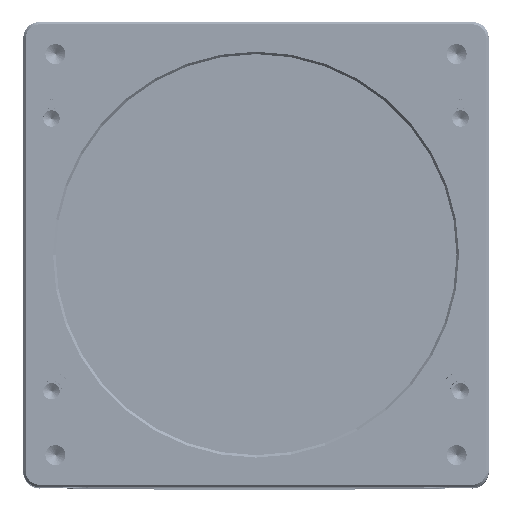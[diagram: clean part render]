
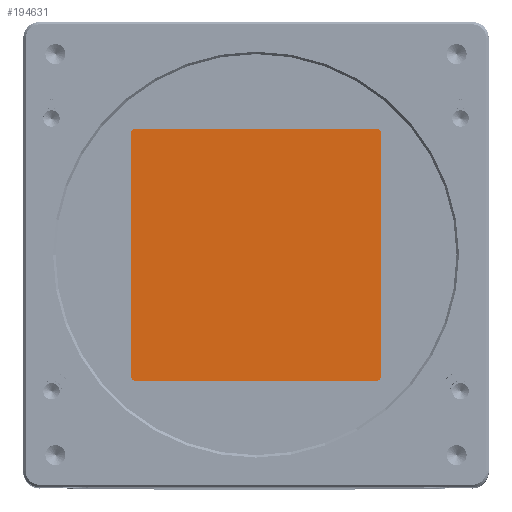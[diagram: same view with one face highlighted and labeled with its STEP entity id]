
A CAD part, top view. The second image highlights one B-rep face of the part: STEP entity #194631.
In plain terms, the highlighted planar face has unit normal (0, 0, 1) as drawn and (0, 1, 0) by its records, which use the part's own axes.
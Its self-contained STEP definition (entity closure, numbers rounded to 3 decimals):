
#59 = CARTESIAN_POINT ( 'NONE',  ( 20.5, 0.7, -19. ) ) ;
#549 = EDGE_CURVE ( 'NONE', #215027, #181083, #163445, .T. ) ;
#584 = ORIENTED_EDGE ( 'NONE', *, *, #49203, .T. ) ;
#1495 = VERTEX_POINT ( 'NONE', #126669 ) ;
#3606 = CARTESIAN_POINT ( 'NONE',  ( -21., 0.7, 19. ) ) ;
#3703 = VERTEX_POINT ( 'NONE', #43008 ) ;
#20655 = LINE ( 'NONE', #234100, #246732 ) ;
#20661 = CARTESIAN_POINT ( 'NONE',  ( -21., 0.7, -18.5 ) ) ;
#21483 = ORIENTED_EDGE ( 'NONE', *, *, #189942, .T. ) ;
#21968 = LINE ( 'NONE', #3606, #217265 ) ;
#41131 = EDGE_CURVE ( 'NONE', #1495, #119041, #110899, .T. ) ;
#43008 = CARTESIAN_POINT ( 'NONE',  ( -21., 0.7, -18.5 ) ) ;
#49203 = EDGE_CURVE ( 'NONE', #54958, #83315, #90617, .T. ) ;
#50700 = DIRECTION ( 'NONE',  ( 0., 0., -1. ) ) ;
#54776 = DIRECTION ( 'NONE',  ( 0.707, 0., -0.707 ) ) ;
#54958 = VERTEX_POINT ( 'NONE', #59 ) ;
#62481 = VECTOR ( 'NONE', #181731, 1000. ) ;
#62525 = DIRECTION ( 'NONE',  ( 0., 0., 1. ) ) ;
#62690 = CARTESIAN_POINT ( 'NONE',  ( -20.5, 0.7, 19. ) ) ;
#64291 = ORIENTED_EDGE ( 'NONE', *, *, #41131, .T. ) ;
#65040 = DIRECTION ( 'NONE',  ( 0., 0., -1. ) ) ;
#70895 = CARTESIAN_POINT ( 'NONE',  ( 20.5, 0.7, 19. ) ) ;
#81106 = DIRECTION ( 'NONE',  ( 1., 0., 0. ) ) ;
#82294 = EDGE_CURVE ( 'NONE', #83315, #3703, #120097, .T. ) ;
#82640 = VECTOR ( 'NONE', #81106, 1000. ) ;
#83315 = VERTEX_POINT ( 'NONE', #195882 ) ;
#89817 = FACE_OUTER_BOUND ( 'NONE', #166052, .T. ) ;
#90617 = LINE ( 'NONE', #248996, #251731 ) ;
#91326 = ORIENTED_EDGE ( 'NONE', *, *, #549, .T. ) ;
#91885 = EDGE_CURVE ( 'NONE', #103052, #1495, #20655, .T. ) ;
#103052 = VERTEX_POINT ( 'NONE', #70895 ) ;
#103332 = VECTOR ( 'NONE', #50700, 1000. ) ;
#107369 = ORIENTED_EDGE ( 'NONE', *, *, #91885, .T. ) ;
#108167 = DIRECTION ( 'NONE',  ( 0., -1., 0. ) ) ;
#110899 = LINE ( 'NONE', #209109, #103332 ) ;
#114034 = AXIS2_PLACEMENT_3D ( 'NONE', #126519, #108167, #65040 ) ;
#118799 = DIRECTION ( 'NONE',  ( -0.707, 0., 0.707 ) ) ;
#119041 = VERTEX_POINT ( 'NONE', #257261 ) ;
#120097 = LINE ( 'NONE', #20661, #156839 ) ;
#121486 = CARTESIAN_POINT ( 'NONE',  ( 20.5, 0.7, -19. ) ) ;
#124864 = EDGE_CURVE ( 'NONE', #3703, #215027, #21968, .T. ) ;
#126519 = CARTESIAN_POINT ( 'NONE',  ( 0., 0.7, 0. ) ) ;
#126669 = CARTESIAN_POINT ( 'NONE',  ( 21., 0.7, 18.5 ) ) ;
#144557 = CARTESIAN_POINT ( 'NONE',  ( -20.5, 0.7, 19. ) ) ;
#154326 = DIRECTION ( 'NONE',  ( -1., 0., 0. ) ) ;
#156839 = VECTOR ( 'NONE', #118799, 1000. ) ;
#159701 = CARTESIAN_POINT ( 'NONE',  ( -21., 0.7, 18.5 ) ) ;
#163445 = LINE ( 'NONE', #62690, #256167 ) ;
#166052 = EDGE_LOOP ( 'NONE', ( #584, #225916, #198601, #91326, #203940, #107369, #64291, #21483 ) ) ;
#181083 = VERTEX_POINT ( 'NONE', #144557 ) ;
#181731 = DIRECTION ( 'NONE',  ( -0.707, 0., -0.707 ) ) ;
#183137 = DIRECTION ( 'NONE',  ( 0.707, 0., 0.707 ) ) ;
#189942 = EDGE_CURVE ( 'NONE', #119041, #54958, #238083, .T. ) ;
#194631 = ADVANCED_FACE ( 'NONE', ( #89817 ), #240829, .F. ) ;
#195882 = CARTESIAN_POINT ( 'NONE',  ( -20.5, 0.7, -19. ) ) ;
#198601 = ORIENTED_EDGE ( 'NONE', *, *, #124864, .T. ) ;
#200268 = LINE ( 'NONE', #216032, #82640 ) ;
#203940 = ORIENTED_EDGE ( 'NONE', *, *, #220796, .T. ) ;
#209109 = CARTESIAN_POINT ( 'NONE',  ( 21., 0.7, 19. ) ) ;
#215027 = VERTEX_POINT ( 'NONE', #159701 ) ;
#216032 = CARTESIAN_POINT ( 'NONE',  ( -21., 0.7, 19. ) ) ;
#217265 = VECTOR ( 'NONE', #62525, 1000. ) ;
#220796 = EDGE_CURVE ( 'NONE', #181083, #103052, #200268, .T. ) ;
#225916 = ORIENTED_EDGE ( 'NONE', *, *, #82294, .T. ) ;
#234100 = CARTESIAN_POINT ( 'NONE',  ( 21., 0.7, 18.5 ) ) ;
#238083 = LINE ( 'NONE', #121486, #62481 ) ;
#240829 = PLANE ( 'NONE',  #114034 ) ;
#246732 = VECTOR ( 'NONE', #54776, 1000. ) ;
#248996 = CARTESIAN_POINT ( 'NONE',  ( -21., 0.7, -19. ) ) ;
#251731 = VECTOR ( 'NONE', #154326, 1000. ) ;
#256167 = VECTOR ( 'NONE', #183137, 1000. ) ;
#257261 = CARTESIAN_POINT ( 'NONE',  ( 21., 0.7, -18.5 ) ) ;
